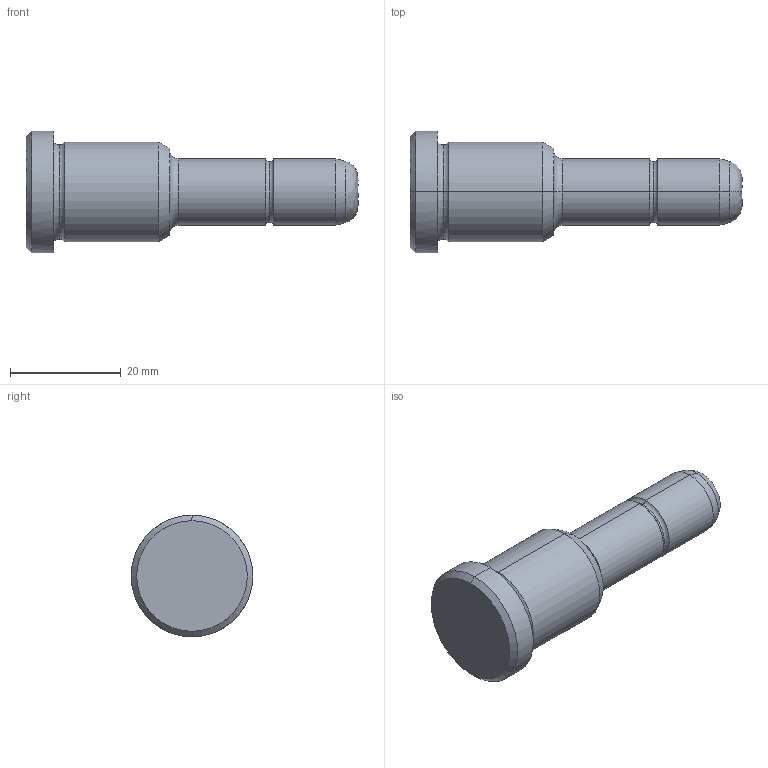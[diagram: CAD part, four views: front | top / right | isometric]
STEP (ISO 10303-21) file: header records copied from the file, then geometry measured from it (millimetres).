
FILE_DESCRIPTION(('CATIA V5 STEP Exchange'),'2;1');
FILE_NAME('C:\Users\Utente\Desktop\IO LAVORO\3D X SITO CF\X SITO\PLASTICA\351\351-12X26X60.stp','2021-08-17T12:11:18+00:00',('none'),('none'),'CATIA Version 5 Release 20 GA (IN-10)','CATIA V5 STEP AP203','none');
FILE_SCHEMA(('CONFIG_CONTROL_DESIGN'));
Length unit declared in the file: millimetre
Products named in the file (1): 351-12X26X60
Bounding box: 60 x 22 x 22 mm (x, y, z)
Volume: 10848.6 mm3; surface area: 3415 mm2
Topology: 1 solids, 1 shells, 30 faces, 86 edges, 60 vertices
Faces by surface type: torus 10, cylinder 8, cone 6, plane 4, bspline 2
Entity records: 1128 total; most frequent: CARTESIAN_POINT 343, ORIENTED_EDGE 172, DIRECTION 124, EDGE_CURVE 86, AXIS2_PLACEMENT_3D 83, VERTEX_POINT 60, CIRCLE 54, EDGE_LOOP 32
